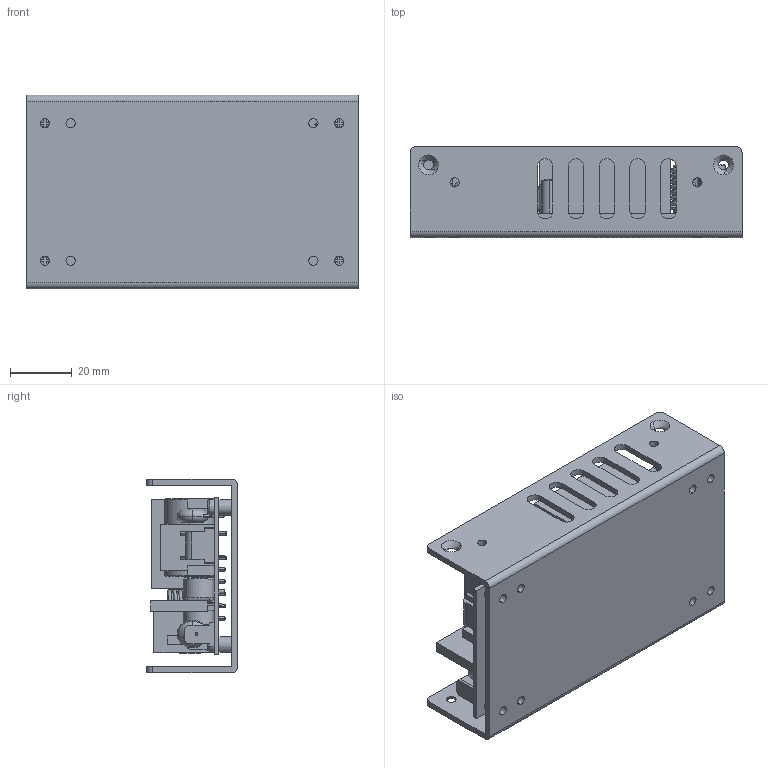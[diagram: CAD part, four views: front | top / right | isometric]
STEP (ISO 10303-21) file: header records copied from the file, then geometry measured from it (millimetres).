
FILE_DESCRIPTION (( 'STEP AP214' ), '1' );
FILE_NAME ('X80AAMC01F.STEP', '2017-07-31T08:16:13', ( '' ), ( '' ), 'SwSTEP 2.0', 'SolidWorks 2016', '' );
FILE_SCHEMA (( 'AUTOMOTIVE_DESIGN' ));
Length unit declared in the file: millimetre
Products named in the file (23): Inductor R6x15; MEF15X10; 華え 9.6mmx7.6mm; ATQ-25; BRIDGE 18X22; X-cap15X11; 蹟緲; PHOTO-COUPLER; Y-Cap; Common-choke; Cap-16-25; Cap-5-11; MEF10X10; LP2920; 50.8X104.4 PCB; X80AAMC01F; TO-220; 3.96 mm Locking Header 6pin; 3.96 mm Locking Header 3-2pin; FUSE; X80AAHS01P-Metal Case-03-20170616; 2-2 2.54mm; Cap-8-21.3
Assembly tree (35 placements, depth 2):
  X80AAMC01F
    50.8X104.4 PCB
    BRIDGE 18X22
    3.96 mm Locking Header 3-2pin
    3.96 mm Locking Header 6pin
    2-2 2.54mm
    FUSE  x2
    Common-choke  x2
    Y-Cap  x7
    TO-220
    Cap-16-25
    LP2920
    ATQ-25
    MEF10X10
    Cap-8-21.3  x2
    MEF15X10
    Cap-5-11
    PHOTO-COUPLER  x2
    Inductor R6x15
    華え 9.6mmx7.6mm
    蹟緲  x4
    X80AAHS01P-Metal Case-03-20170616
    X-cap15X11
Bounding box: 107.6 x 29.5 x 62.8 mm (x, y, z)
Volume: 78676.4 mm3; surface area: 57249.7 mm2
Topology: 35 solids, 35 shells, 870 faces, 2068 edges, 1290 vertices
Faces by surface type: plane 405, cylinder 298, torus 130, sphere 20, bspline 17
Entity records: 19989 total; most frequent: CARTESIAN_POINT 4498, DIRECTION 3207, ORIENTED_EDGE 2874, EDGE_CURVE 1437, AXIS2_PLACEMENT_3D 1212, VERTEX_POINT 912, LINE 783, VECTOR 783
